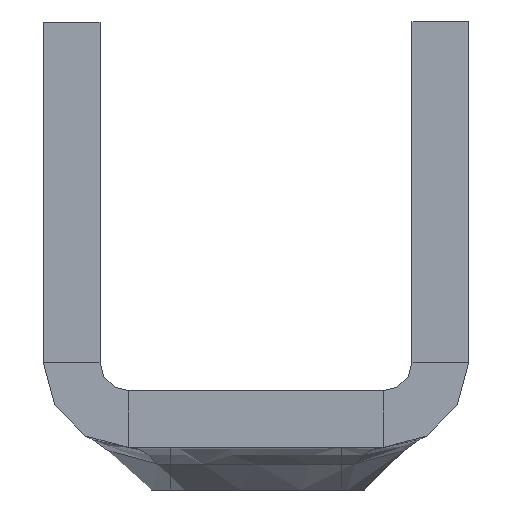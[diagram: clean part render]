
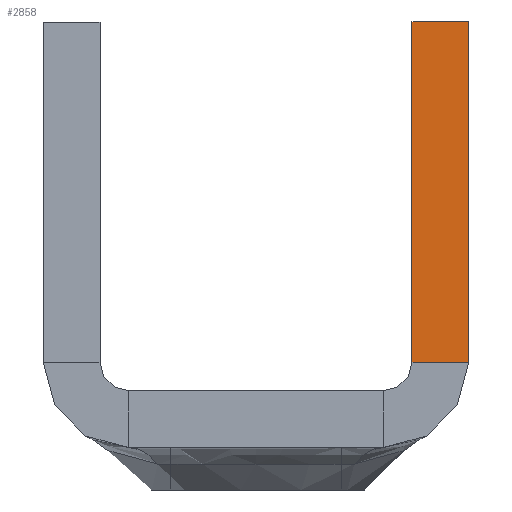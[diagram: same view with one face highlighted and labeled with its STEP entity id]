
A CAD part, front view. The second image highlights one B-rep face of the part: STEP entity #2858.
In plain terms, the highlighted planar face has unit normal (0, -1, 0).
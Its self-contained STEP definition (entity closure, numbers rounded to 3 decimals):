
#129=PLANE('',#3238);
#205=LINE('',#9122,#289);
#207=LINE('',#9125,#291);
#210=LINE('',#9133,#294);
#211=LINE('',#9134,#295);
#289=VECTOR('',#4039,12.);
#291=VECTOR('',#4043,2.);
#294=VECTOR('',#4054,12.);
#295=VECTOR('',#4055,2.);
#646=FACE_OUTER_BOUND('',#884,.T.);
#884=EDGE_LOOP('',(#2557,#2558,#2559,#2560));
#1358=VERTEX_POINT('',#8726);
#1378=VERTEX_POINT('',#9119);
#1379=VERTEX_POINT('',#9121);
#1380=VERTEX_POINT('',#9132);
#1779=EDGE_CURVE('',#1379,#1378,#205,.T.);
#1781=EDGE_CURVE('',#1378,#1358,#207,.T.);
#1786=EDGE_CURVE('',#1358,#1380,#210,.T.);
#1787=EDGE_CURVE('',#1379,#1380,#211,.T.);
#2557=ORIENTED_EDGE('',*,*,#1781,.T.);
#2558=ORIENTED_EDGE('',*,*,#1786,.T.);
#2559=ORIENTED_EDGE('',*,*,#1787,.F.);
#2560=ORIENTED_EDGE('',*,*,#1779,.T.);
#2858=ADVANCED_FACE('',(#646),#129,.T.);
#3238=AXIS2_PLACEMENT_3D('',#9131,#4052,#4053);
#4039=DIRECTION('',(0.,0.,-1.));
#4043=DIRECTION('',(1.,0.,0.));
#4052=DIRECTION('center_axis',(0.,-1.,0.));
#4053=DIRECTION('ref_axis',(1.,0.,0.));
#4054=DIRECTION('',(0.,0.,1.));
#4055=DIRECTION('',(1.,0.,0.));
#8726=CARTESIAN_POINT('',(7.5,-6000.,3.));
#9119=CARTESIAN_POINT('',(5.5,-6000.,3.));
#9121=CARTESIAN_POINT('',(5.5,-6000.,15.));
#9122=CARTESIAN_POINT('',(5.5,-6000.,-2.906));
#9125=CARTESIAN_POINT('',(5.94,-6000.,3.));
#9131=CARTESIAN_POINT('Origin',(5.5,-6000.,3.));
#9132=CARTESIAN_POINT('',(7.5,-6000.,15.));
#9133=CARTESIAN_POINT('',(7.5,-6000.,3.));
#9134=CARTESIAN_POINT('',(5.5,-6000.,15.));
